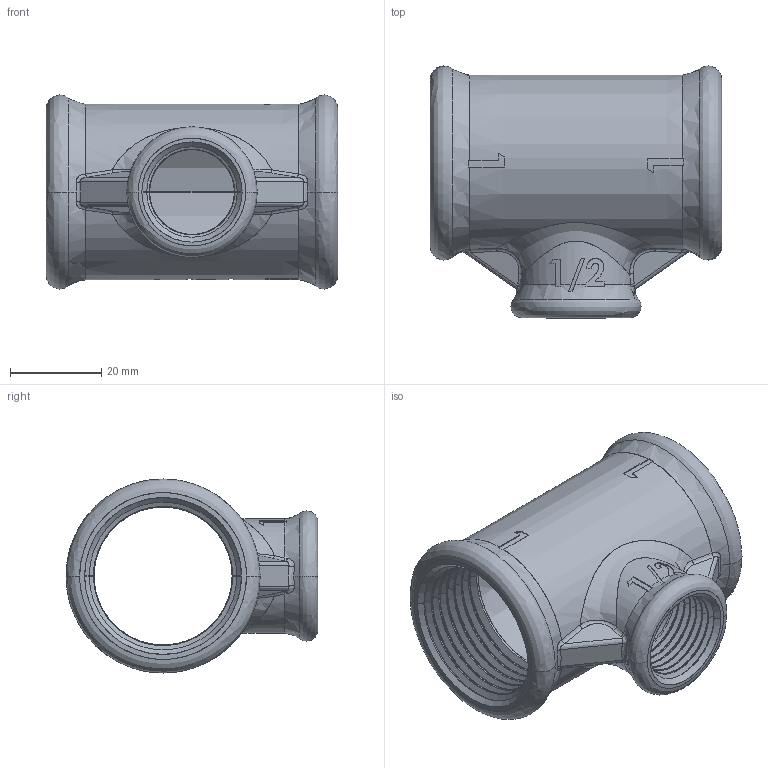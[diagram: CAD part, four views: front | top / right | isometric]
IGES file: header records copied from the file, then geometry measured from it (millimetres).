
Start section: SolidWorks IGES file using analytic representation for surfaces
Global section: file name: C:\Users\Joel Rosa\Desktop\Tubulação\12-45-XXX\12-45-032.IGS; native system: SolidWorks 2011; preprocessor: SolidWorks 2011; author: Joel Rosa; date: 121212.233242; units: millimetre
Bounding box: 64 x 55.3 x 42.6 mm (x, y, z)
Surface area: 20420.4 mm2 (no closed solid volume)
Topology: 0 solids, 0 shells, 405 faces, 3716 edges, 3716 vertices
Faces by surface type: bspline 286, revolution 119
